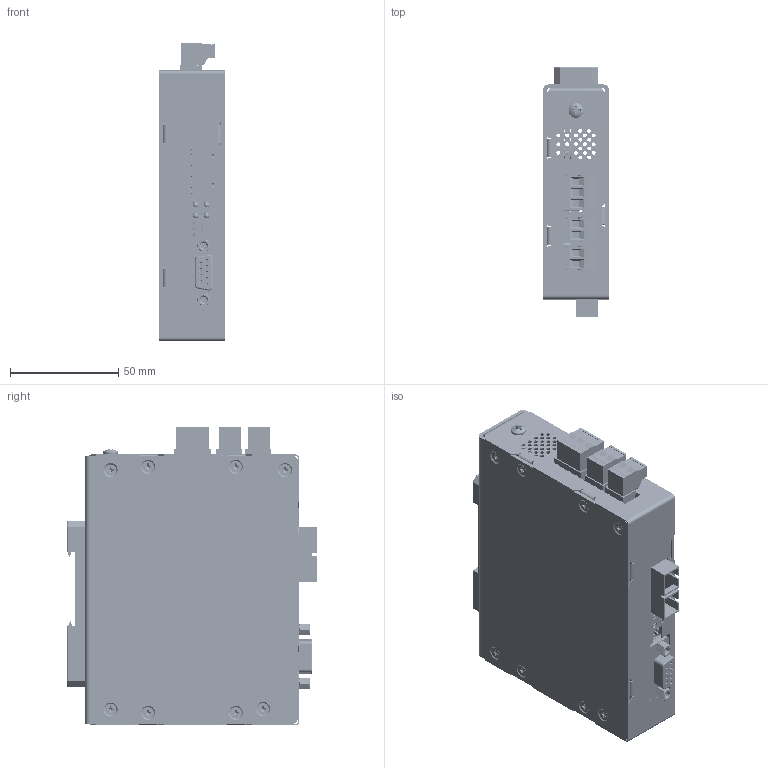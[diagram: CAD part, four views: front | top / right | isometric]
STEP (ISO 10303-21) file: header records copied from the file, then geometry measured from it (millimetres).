
FILE_DESCRIPTION(/* description */ ('STEP AP242','CAx-IF Rec.Pracs.---Representation and Presentation of Product Manufacturing Information (PMI)---4.0---2014-10-13','CAx-IF Rec.Pracs.---3D Tessellated Geometry---0.4---2014-09-14','2;1'),/* implementation_level */ '2;1');
FILE_NAME(/* name */ '618ab3a7aa98d24850610f98',/* time_stamp */ '2021-11-09T17:45:16+00:00',/* author */ (''),/* organization */ (''),/* preprocessor_version */ 'ST-DEVELOPER v18.1',/* originating_system */ ' ',/* authorisation */ ' ');
FILE_SCHEMA (('AP242_MANAGED_MODEL_BASED_3D_ENGINEERING_MIM_LF { 1 0 10303 442 1 1 4 }'));
Products named in the file (42): SED-XX-2-DIN - Rev C; 96640A334_Black-Oxide 18-8 Stainless Steel Phillips Flat Head Screws; 96640A115_Black-Oxide 18-8 Stainless Steel Phillips Flat Head Screws; 91772A144_Passivated 18-8 Stainless Steel Pan Head Phillips Screw; DINM12-RC-Assy <1>; spring^DINM12-RC-Assy; Spring clip; DINM12-RC; H-140 - RS-232 Front Cover - Rev C <1>; PRODUCT_NAME_1; Part 1; PCB Boards <1>; PCB Daughter Board <1>; BPA02_SW0001_PRT; DB9 - 203-09SCKKBE <1>; Pino grande; Pino pequeno; Parafuso sextavado; Porca; Trava; Chapa frontal; Corpo plastico; PCB Carrier Board <1>; SMTSO-440-8ET-PennEngineering-3D-09-30-2021; C-796634-3; C-796634-2; C-796638-2; C-796638-3; H-105 Rear Housing <1>; 95185A130_Zinc-Plated Steel Press-Fit Nut for Sheet Metal
Assembly tree (94 placements, depth 5):
  SED-XX-2-DIN - Rev C
    96640A334_Black-Oxide 18-8 Stainless Steel Phillips Flat Head Screws  x14
    96640A115_Black-Oxide 18-8 Stainless Steel Phillips Flat Head Screws  x3
    91772A144_Passivated 18-8 Stainless Steel Pan Head Phillips Screw
    DINM12-RC-Assy <1>
      spring^DINM12-RC-Assy
      Spring clip
      DINM12-RC
      spring^DINM12-RC-Assy
    H-140 - RS-232 Front Cover - Rev C <1>
      PRODUCT_NAME_1  x10
      PRODUCT_NAME_1
      Part 1
    PCB Boards <1>
      PCB Daughter Board <1>
        Part 1  x3
        BPA02_SW0001_PRT
        Part 1
        Part 1  x2
        BPA02_SW0001_PRT
        Part 1
        BPA02_SW0001_PRT
        DB9 - 203-09SCKKBE <1>
          Pino grande  x5
          Pino pequeno  x4
          Parafuso sextavado  x2
          Porca  x2
          Trava  x2
          Chapa frontal
          Corpo plastico
      PCB Carrier Board <1>
        SMTSO-440-8ET-PennEngineering-3D-09-30-2021  x4
        C-796634-3
        Part 1  x8
        C-796634-2  x2
        PRODUCT_NAME_1  x4
        C-796638-3
        C-796638-2
        Part 1
    H-105 Rear Housing <1>
      Part 1
      95185A130_Zinc-Plated Steel Press-Fit Nut for Sheet Metal  x3
Bounding box: 30.48 x 115.34 x 138 mm (x, y, z)
Volume: 105639.3 mm3; surface area: 145072.5 mm2
Topology: 87 solids, 88 shells, 4846 faces, 13797 edges, 9405 vertices
Faces by surface type: plane 3266, cylinder 1162, cone 239, bspline 121, torus 45, sphere 13
Full cylindrical faces by diameter (mm): 0.45 x9, 0.5 x2, 0.9 x9, 1 x9, 1.3 x4, 1.905 x143, 2.156 x18, 2.647 x1, 2.667 x3, 2.7 x10, 2.794 x4, 2.8 x2, 2.845 x112, 2.9 x4, 3.251 x14, 3.505 x24, 4 x10, 4.089 x8, 4.191 x10, 4.216 x18, 4.724 x1, 4.75 x1, 4.763 x3, 4.826 x3, 4.889 x10, 5.41 x16, 5.563 x25, 5.588 x10, 6.401 x1, 6.858 x1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
Entity records: 105094 total; most frequent: CARTESIAN_POINT 28182, ORIENTED_EDGE 14470, DIRECTION 13794, EDGE_CURVE 7237, LINE 5210, VECTOR 5210, VERTEX_POINT 5000, AXIS2_PLACEMENT_3D 4292
